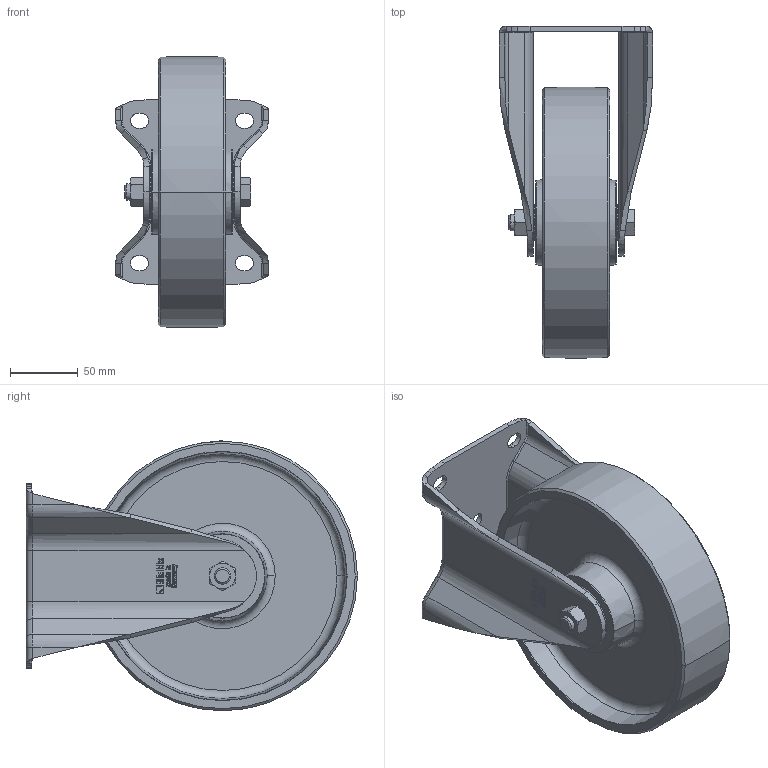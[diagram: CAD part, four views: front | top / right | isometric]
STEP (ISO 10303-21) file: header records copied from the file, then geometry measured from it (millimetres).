
FILE_DESCRIPTION (( 'STEP AP214' ), '1' );
FILE_NAME ('BH-G_200K_048942-214.step', '2021-11-24T13:09:12', ( '' ), ( '' ), 'SwSTEP 2.0', 'SolidWorks 2018', '' );
FILE_SCHEMA (( 'AUTOMOTIVE_DESIGN' ));
Length unit declared in the file: millimetre
Products named in the file (5): G_200_20K_G16_3D; BH-G_200K_048942-214; GH-BH-200x60-03_20x60_G16_3D; GH-BH_150-250_GH-BH-200x60-03_20x60; G_3D_G16_G_200_20K_033498
Assembly tree (4 placements, depth 3):
  BH-G_200K_048942-214
    GH-BH_150-250_GH-BH-200x60-03_20x60
      GH-BH-200x60-03_20x60_G16_3D
    G_3D_G16_G_200_20K_033498
      G_200_20K_G16_3D
Bounding box: 113 x 244.95 x 199.9 mm (x, y, z)
Volume: 784159.4 mm3; surface area: 239276.6 mm2
Topology: 2 solids, 5 shells, 1479 faces, 3818 edges, 2467 vertices
Faces by surface type: plane 659, bspline 551, torus 113, cylinder 97, cone 55, sphere 4
Entity records: 68023 total; most frequent: CARTESIAN_POINT 19079, ORIENTED_EDGE 7626, DIRECTION 5025, EDGE_CURVE 3813, VERTEX_POINT 2464, VECTOR 2187, LINE 2187, EDGE_LOOP 1619
